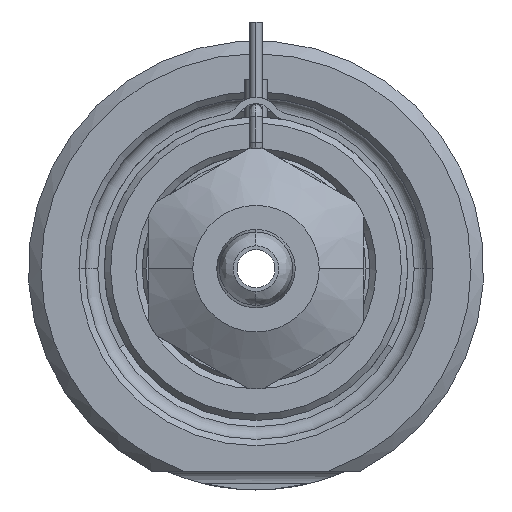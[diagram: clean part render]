
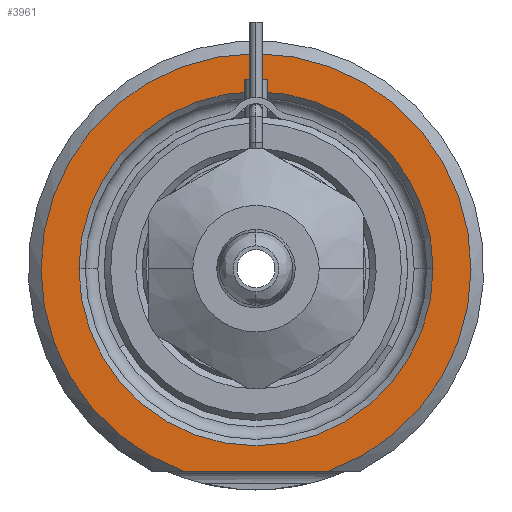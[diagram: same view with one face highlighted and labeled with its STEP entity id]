
A CAD part, front view. The second image highlights one B-rep face of the part: STEP entity #3961.
In plain terms, the highlighted planar face has unit normal (0, -1, 0).
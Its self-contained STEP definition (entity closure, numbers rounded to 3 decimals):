
#639=CARTESIAN_POINT('',(0.,0.,0.));
#640=DIRECTION('',(0.,-1.,0.));
#641=DIRECTION('',(0.338,0.,-0.941));
#642=AXIS2_PLACEMENT_3D('',#639,#640,#641);
#663=DIRECTION('',(1.,0.,0.));
#664=VECTOR('',#663,11.489);
#665=CARTESIAN_POINT('',(-5.745,0.,-16.));
#666=LINE('',#665,#664);
#667=CARTESIAN_POINT('',(0.,0.,0.));
#668=DIRECTION('',(0.,1.,0.));
#669=DIRECTION('',(-1.,0.,0.));
#670=AXIS2_PLACEMENT_3D('',#667,#668,#669);
#672=CARTESIAN_POINT('',(0.,0.,0.));
#673=DIRECTION('',(0.,1.,0.));
#674=DIRECTION('',(1.,0.,0.));
#675=AXIS2_PLACEMENT_3D('',#672,#673,#674);
#2456=CARTESIAN_POINT('',(-14.,0.,0.));
#2457=CARTESIAN_POINT('',(14.,0.,0.));
#2458=VERTEX_POINT('',#2456);
#2459=VERTEX_POINT('',#2457);
#2496=CARTESIAN_POINT('',(-5.745,0.,-16.));
#2497=CARTESIAN_POINT('',(5.745,0.,-16.));
#2498=VERTEX_POINT('',#2496);
#2499=VERTEX_POINT('',#2497);
#3946=CARTESIAN_POINT('',(0.,0.,0.));
#3947=DIRECTION('',(0.,-1.,0.));
#3948=DIRECTION('',(1.,0.,0.));
#3949=AXIS2_PLACEMENT_3D('',#3946,#3947,#3948);
#3950=PLANE('',#3949);
#3951=ORIENTED_EDGE('',*,*,#3878,.F.);
#3952=ORIENTED_EDGE('',*,*,#3938,.F.);
#3953=EDGE_LOOP('',(#3951,#3952));
#3954=FACE_OUTER_BOUND('',#3953,.F.);
#3956=ORIENTED_EDGE('',*,*,#3955,.F.);
#3958=ORIENTED_EDGE('',*,*,#3957,.F.);
#3959=EDGE_LOOP('',(#3956,#3958));
#3960=FACE_BOUND('',#3959,.F.);
#3961=ADVANCED_FACE('',(#3954,#3960),#3950,.T.);
#643=CIRCLE('',#642,17.);
#671=CIRCLE('',#670,14.);
#676=CIRCLE('',#675,14.);
#3878=EDGE_CURVE('',#2498,#2499,#666,.T.);
#3938=EDGE_CURVE('',#2499,#2498,#643,.T.);
#3955=EDGE_CURVE('',#2458,#2459,#671,.T.);
#3957=EDGE_CURVE('',#2459,#2458,#676,.T.);
